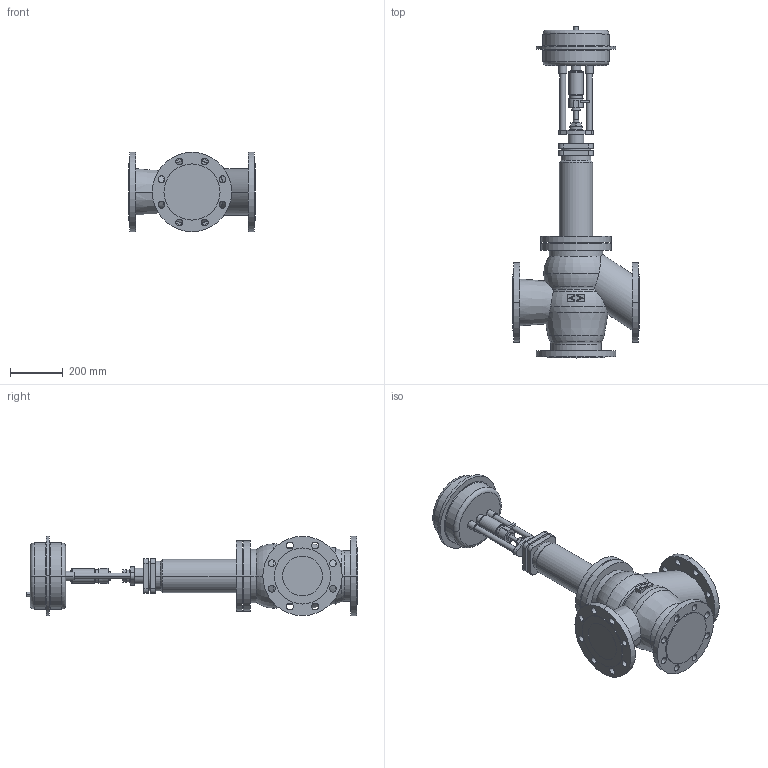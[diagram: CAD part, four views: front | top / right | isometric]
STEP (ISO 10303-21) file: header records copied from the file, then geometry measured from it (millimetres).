
FILE_DESCRIPTION(('OneSpaceDesigner STEP Export'),'2;1');
FILE_NAME('c000000737.stp','2006-09-21T 8:39:20',(''),(''),'OneSpace Designer STEP processor for AP214 (Solid Model)','OneSpace Designer 13.20A 18-Aug-2005 (C) CoCreate Software GmbH','');
FILE_SCHEMA(('AUTOMOTIVE_DESIGN { 1 0 10303 214 1 1 1 1 }'));
Length unit declared in the file: millimetre
Products named in the file (2): 1; 2
Bounding box: 480 x 1255.8 x 300 mm (x, y, z)
Volume: 40595039.5 mm3; surface area: 1468165.9 mm2
Topology: 2 solids, 2 shells, 270 faces, 662 edges, 431 vertices
Faces by surface type: cylinder 130, plane 98, torus 32, cone 10
Entity records: 7324 total; most frequent: CARTESIAN_POINT 1419, ORIENTED_EDGE 1324, DIRECTION 1078, EDGE_CURVE 662, VERTEX_POINT 431, AXIS2_PLACEMENT_3D 398, EDGE_LOOP 353, VECTOR 282
